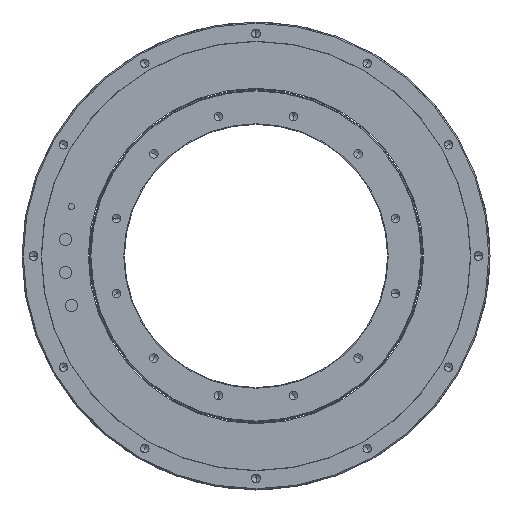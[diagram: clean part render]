
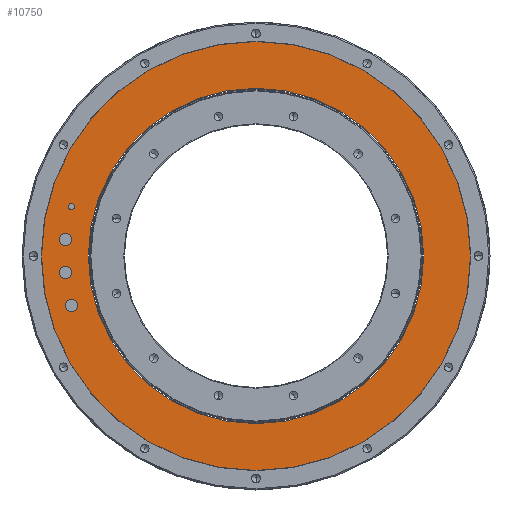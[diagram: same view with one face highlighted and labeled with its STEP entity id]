
A CAD part, left-side view. The second image highlights one B-rep face of the part: STEP entity #10750.
In plain terms, the highlighted planar face has unit normal (-1, 0, 0).
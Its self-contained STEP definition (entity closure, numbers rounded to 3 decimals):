
#10329=CARTESIAN_POINT('',(-125.,0.,0.));
#10330=DIRECTION('',(-1.,0.,0.));
#10331=DIRECTION('',(0.,1.,0.));
#10332=AXIS2_PLACEMENT_3D('',#10329,#10330,#10331);
#10334=CARTESIAN_POINT('',(-125.,0.,0.));
#10335=DIRECTION('',(1.,0.,0.));
#10336=DIRECTION('',(0.,1.,0.));
#10337=AXIS2_PLACEMENT_3D('',#10334,#10335,#10336);
#10339=CARTESIAN_POINT('',(-125.,0.,0.));
#10340=DIRECTION('',(-1.,0.,0.));
#10341=DIRECTION('',(0.,1.,0.));
#10342=AXIS2_PLACEMENT_3D('',#10339,#10340,#10341);
#10344=CARTESIAN_POINT('',(-125.,0.,0.));
#10345=DIRECTION('',(1.,0.,0.));
#10346=DIRECTION('',(0.,1.,0.));
#10347=AXIS2_PLACEMENT_3D('',#10344,#10345,#10346);
#10349=CARTESIAN_POINT('',(-125.,151.457,-40.583));
#10350=DIRECTION('',(-1.,0.,0.));
#10351=DIRECTION('',(0.,0.,1.));
#10352=AXIS2_PLACEMENT_3D('',#10349,#10350,#10351);
#10354=CARTESIAN_POINT('',(-125.,151.457,-40.583));
#10355=DIRECTION('',(-1.,0.,0.));
#10356=DIRECTION('',(0.,0.,-1.));
#10357=AXIS2_PLACEMENT_3D('',#10354,#10355,#10356);
#10359=CARTESIAN_POINT('',(-125.,151.457,40.583));
#10360=DIRECTION('',(-1.,0.,0.));
#10361=DIRECTION('',(0.,0.,1.));
#10362=AXIS2_PLACEMENT_3D('',#10359,#10360,#10361);
#10364=CARTESIAN_POINT('',(-125.,151.457,40.583));
#10365=DIRECTION('',(-1.,0.,0.));
#10366=DIRECTION('',(0.,0.,-1.));
#10367=AXIS2_PLACEMENT_3D('',#10364,#10365,#10366);
#10369=CARTESIAN_POINT('',(-125.,156.203,13.666));
#10370=DIRECTION('',(-1.,0.,0.));
#10371=DIRECTION('',(0.,0.,1.));
#10372=AXIS2_PLACEMENT_3D('',#10369,#10370,#10371);
#10374=CARTESIAN_POINT('',(-125.,156.203,13.666));
#10375=DIRECTION('',(-1.,0.,0.));
#10376=DIRECTION('',(0.,0.,-1.));
#10377=AXIS2_PLACEMENT_3D('',#10374,#10375,#10376);
#10379=CARTESIAN_POINT('',(-125.,156.203,-13.666));
#10380=DIRECTION('',(-1.,0.,0.));
#10381=DIRECTION('',(0.,0.,1.));
#10382=AXIS2_PLACEMENT_3D('',#10379,#10380,#10381);
#10384=CARTESIAN_POINT('',(-125.,156.203,-13.666));
#10385=DIRECTION('',(-1.,0.,0.));
#10386=DIRECTION('',(0.,0.,-1.));
#10387=AXIS2_PLACEMENT_3D('',#10384,#10385,#10386);
#10538=CARTESIAN_POINT('',(-125.,176.,0.));
#10540=VERTEX_POINT('',#10538);
#10541=CARTESIAN_POINT('',(-125.,137.6,0.));
#10543=VERTEX_POINT('',#10541);
#10558=CARTESIAN_POINT('',(-125.,-176.,0.));
#10560=VERTEX_POINT('',#10558);
#10561=CARTESIAN_POINT('',(-125.,-137.6,0.));
#10563=VERTEX_POINT('',#10561);
#10593=CARTESIAN_POINT('',(-125.,151.457,-35.583));
#10594=CARTESIAN_POINT('',(-125.,151.457,-45.583));
#10595=VERTEX_POINT('',#10593);
#10596=VERTEX_POINT('',#10594);
#10597=CARTESIAN_POINT('',(-125.,151.457,43.083));
#10598=CARTESIAN_POINT('',(-125.,151.457,38.083));
#10599=VERTEX_POINT('',#10597);
#10600=VERTEX_POINT('',#10598);
#10601=CARTESIAN_POINT('',(-125.,156.203,18.666));
#10602=CARTESIAN_POINT('',(-125.,156.203,8.666));
#10603=VERTEX_POINT('',#10601);
#10604=VERTEX_POINT('',#10602);
#10605=CARTESIAN_POINT('',(-125.,156.203,-8.666));
#10606=CARTESIAN_POINT('',(-125.,156.203,-18.666));
#10607=VERTEX_POINT('',#10605);
#10608=VERTEX_POINT('',#10606);
#10711=CARTESIAN_POINT('',(-125.,0.,0.));
#10712=DIRECTION('',(1.,0.,0.));
#10713=DIRECTION('',(0.,-1.,0.));
#10714=AXIS2_PLACEMENT_3D('',#10711,#10712,#10713);
#10715=PLANE('',#10714);
#10717=ORIENTED_EDGE('',*,*,#10716,.F.);
#10719=ORIENTED_EDGE('',*,*,#10718,.T.);
#10720=EDGE_LOOP('',(#10717,#10719));
#10721=FACE_OUTER_BOUND('',#10720,.F.);
#10722=ORIENTED_EDGE('',*,*,#10704,.F.);
#10723=ORIENTED_EDGE('',*,*,#10693,.T.);
#10724=EDGE_LOOP('',(#10722,#10723));
#10725=FACE_BOUND('',#10724,.F.);
#10727=ORIENTED_EDGE('',*,*,#10726,.T.);
#10729=ORIENTED_EDGE('',*,*,#10728,.T.);
#10730=EDGE_LOOP('',(#10727,#10729));
#10731=FACE_BOUND('',#10730,.F.);
#10733=ORIENTED_EDGE('',*,*,#10732,.T.);
#10735=ORIENTED_EDGE('',*,*,#10734,.T.);
#10736=EDGE_LOOP('',(#10733,#10735));
#10737=FACE_BOUND('',#10736,.F.);
#10739=ORIENTED_EDGE('',*,*,#10738,.T.);
#10741=ORIENTED_EDGE('',*,*,#10740,.T.);
#10742=EDGE_LOOP('',(#10739,#10741));
#10743=FACE_BOUND('',#10742,.F.);
#10745=ORIENTED_EDGE('',*,*,#10744,.T.);
#10747=ORIENTED_EDGE('',*,*,#10746,.T.);
#10748=EDGE_LOOP('',(#10745,#10747));
#10749=FACE_BOUND('',#10748,.F.);
#10750=ADVANCED_FACE('',(#10721,#10725,#10731,#10737,#10743,#10749),#10715,.F.);
#10333=CIRCLE('',#10332,137.6);
#10338=CIRCLE('',#10337,137.6);
#10343=CIRCLE('',#10342,176.);
#10348=CIRCLE('',#10347,176.);
#10353=CIRCLE('',#10352,5.);
#10358=CIRCLE('',#10357,5.);
#10363=CIRCLE('',#10362,2.5);
#10368=CIRCLE('',#10367,2.5);
#10373=CIRCLE('',#10372,5.);
#10378=CIRCLE('',#10377,5.);
#10383=CIRCLE('',#10382,5.);
#10388=CIRCLE('',#10387,5.);
#10693=EDGE_CURVE('',#10543,#10563,#10333,.T.);
#10704=EDGE_CURVE('',#10543,#10563,#10338,.T.);
#10716=EDGE_CURVE('',#10540,#10560,#10343,.T.);
#10718=EDGE_CURVE('',#10540,#10560,#10348,.T.);
#10726=EDGE_CURVE('',#10595,#10596,#10353,.T.);
#10728=EDGE_CURVE('',#10596,#10595,#10358,.T.);
#10732=EDGE_CURVE('',#10599,#10600,#10363,.T.);
#10734=EDGE_CURVE('',#10600,#10599,#10368,.T.);
#10738=EDGE_CURVE('',#10603,#10604,#10373,.T.);
#10740=EDGE_CURVE('',#10604,#10603,#10378,.T.);
#10744=EDGE_CURVE('',#10607,#10608,#10383,.T.);
#10746=EDGE_CURVE('',#10608,#10607,#10388,.T.);
